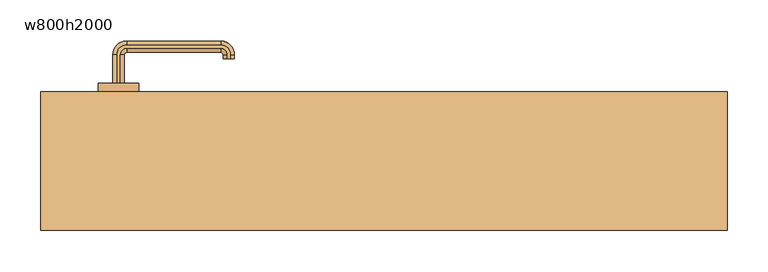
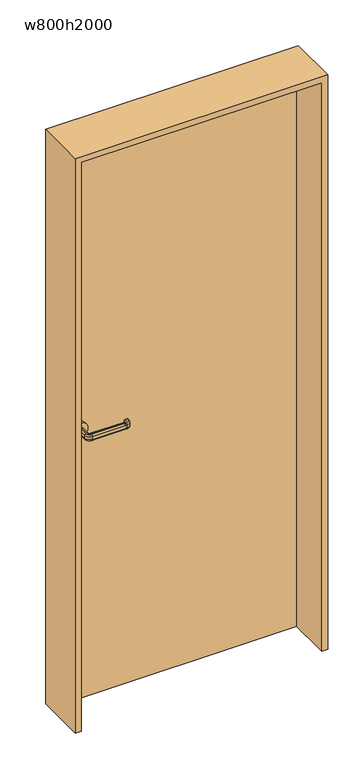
"""IFC4 building model written with IfcOpenShell, lengths in millimetres: door geometry, 片開き : w800h2000."""

from ifc_helpers import new_model, si_unit, point, frame, frame_2d, origin, origin_with_axes, place, context, project, spatial, polyline, circle_curve, ellipse_curve, trimmed, segment, composite_curve, outline, extrude, source, transform, mapped, element, save
from ifc_brep_helpers import plane_surface, cylinder_surface, revolved_surface, advanced_brep


def w800h2000_b5c5a0a2(model_context):
    return source(origin(), model_context, "Body", "SolidModel", [
        advanced_brep(
        [(-327.0, 95.0, 960.0), (-332.0, 95.0, 955.0), (-332.0, 95.0, 945.0477623), (-327.0, 95.0, 940.0477623), (-323.0, 95.0, 940.0477623), (-318.0, 95.0, 945.0477623), (-318.0, 95.0, 955.0), (-323.0, 95.0, 960.0), (-327.0, 130.0, 960.0), (-332.0, 130.0, 955.0), (-332.0, 130.0, 945.0477623), (-327.0, 130.0, 940.0477623), (-315.0, 142.0, 940.0477623), (-200.0, 142.0, 940.0477623), (-188.0, 130.0, 940.0477623), (-188.0, 125.0, 940.0477623), (-192.0, 125.0, 940.0477623), (-192.0, 130.0, 940.0477623), (-200.0, 138.0, 940.0477623), (-315.0, 138.0, 940.0477623), (-323.0, 130.0, 940.0477623), (-318.0, 130.0, 945.0477623), (-318.0, 130.0, 955.0), (-323.0, 130.0, 960.0), (-315.0, 138.0, 960.0), (-200.0, 138.0, 960.0), (-192.0, 130.0, 960.0), (-192.0, 125.0, 960.0), (-188.0, 125.0, 960.0), (-188.0, 130.0, 960.0), (-200.0, 142.0, 960.0), (-315.0, 142.0, 960.0), (-315.0, 147.0, 955.0), (-315.0, 147.0, 945.0477623), (-315.0, 133.0, 945.0477623), (-315.0, 133.0, 955.0), (-200.0, 147.0, 955.0), (-200.0, 147.0, 945.0477623), (-200.0, 133.0, 945.0477623), (-200.0, 133.0, 955.0), (-183.0, 130.0, 955.0), (-183.0, 130.0, 945.0477623), (-197.0, 130.0, 945.0477623), (-197.0, 130.0, 955.0), (-197.0, 125.0, 955.0), (-197.0, 125.0, 945.0477623), (-183.0, 125.0, 945.0477623), (-183.0, 125.0, 955.0)],
        [
            (0, 1, circle_curve(frame((-327.0, 95.0, 955.0), z_axis=(0.0, -1.0, 0.0), x_axis=(-1.0, 0.0, 0.0)), 5.0)),
            (1, 2),
            (2, 3, circle_curve(frame((-327.0, 95.0, 945.0477623), z_axis=(0.0, -1.0, 0.0), x_axis=(-1.0, 0.0, 0.0)), 5.0)),
            (3, 4),
            (4, 5, circle_curve(frame((-323.0, 95.0, 945.0477623), z_axis=(0.0, -1.0, 0.0), x_axis=(-1.0, 0.0, 0.0)), 5.0)),
            (5, 6),
            (6, 7, circle_curve(frame((-323.0, 95.0, 955.0), z_axis=(0.0, -1.0, 0.0), x_axis=(-1.0, 0.0, 0.0)), 5.0)),
            (7, 0),
            (0, 8),
            (8, 9, circle_curve(frame((-327.0, 130.0, 955.0), z_axis=(0.0, -1.0, 0.0), x_axis=(-1.0, 0.0, 0.0)), 5.0)),
            (9, 1),
            (9, 10),
            (10, 2),
            (10, 11, circle_curve(frame((-327.0, 130.0, 945.0477623), z_axis=(0.0, -1.0, 0.0), x_axis=(-1.0, 0.0, 0.0)), 5.0)),
            (11, 3),
            (11, 12, circle_curve(frame((-315.0, 130.0, 940.0477623), z_axis=(0.0, 0.0, -1.0), x_axis=(-1.0, 0.0, 0.0)), 12.0)),
            (12, 13),
            (13, 14, circle_curve(frame((-200.0, 130.0, 940.0477623), z_axis=(0.0, 0.0, -1.0), x_axis=(0.0, 1.0, 0.0)), 12.0)),
            (14, 15),
            (15, 16),
            (16, 17),
            (17, 18, circle_curve(frame((-200.0, 130.0, 940.0477623), z_axis=(0.0, 0.0, 1.0), x_axis=(0.0, 1.0, 0.0)), 8.0)),
            (18, 19),
            (19, 20, circle_curve(frame((-315.0, 130.0, 940.0477623), z_axis=(0.0, 0.0, 1.0), x_axis=(-1.0, 0.0, 0.0)), 8.0)),
            (20, 4),
            (20, 21, circle_curve(frame((-323.0, 130.0, 945.0477623), z_axis=(0.0, -1.0, 0.0), x_axis=(-1.0, 0.0, 0.0)), 5.0)),
            (21, 5),
            (21, 22),
            (22, 6),
            (22, 23, circle_curve(frame((-323.0, 130.0, 955.0), z_axis=(0.0, -1.0, 0.0), x_axis=(-1.0, 0.0, 0.0)), 5.0)),
            (23, 7),
            (23, 24, circle_curve(frame((-315.0, 130.0, 960.0), z_axis=(0.0, 0.0, -1.0), x_axis=(-1.0, 0.0, 0.0)), 8.0)),
            (24, 25),
            (25, 26, circle_curve(frame((-200.0, 130.0, 960.0), z_axis=(0.0, 0.0, -1.0), x_axis=(0.0, 1.0, 0.0)), 8.0)),
            (26, 27),
            (27, 28),
            (28, 29),
            (29, 30, circle_curve(frame((-200.0, 130.0, 960.0), z_axis=(0.0, 0.0, 1.0), x_axis=(0.0, 1.0, 0.0)), 12.0)),
            (30, 31),
            (31, 8, circle_curve(frame((-315.0, 130.0, 960.0), z_axis=(0.0, 0.0, 1.0), x_axis=(-1.0, 0.0, 0.0)), 12.0)),
            (32, 9, circle_curve(frame((-315.0, 130.0, 955.0), z_axis=(0.0, 0.0, 1.0), x_axis=(-1.0, 0.0, 0.0)), 17.0)),
            (31, 32, circle_curve(frame((-315.0, 142.0, 955.0), z_axis=(-1.0, 0.0, 0.0), x_axis=(0.0, 1.0, 0.0)), 5.0)),
            (33, 10, circle_curve(frame((-315.0, 130.0, 945.0477623), z_axis=(0.0, 0.0, 1.0), x_axis=(-1.0, 0.0, 0.0)), 17.0)),
            (32, 33),
            (33, 12, circle_curve(frame((-315.0, 142.0, 945.0477623), z_axis=(-1.0, 0.0, 0.0), x_axis=(0.0, 1.0, 0.0)), 5.0)),
            (34, 21, circle_curve(frame((-315.0, 130.0, 945.0477623), z_axis=(0.0, 0.0, 1.0), x_axis=(-1.0, 0.0, 0.0)), 3.0)),
            (19, 34, circle_curve(frame((-315.0, 138.0, 945.0477623), z_axis=(-1.0, 0.0, 0.0), x_axis=(0.0, 1.0, 0.0)), 5.0)),
            (35, 22, circle_curve(frame((-315.0, 130.0, 955.0), z_axis=(0.0, 0.0, 1.0), x_axis=(-1.0, 0.0, 0.0)), 3.0)),
            (34, 35),
            (35, 24, circle_curve(frame((-315.0, 138.0, 955.0), z_axis=(-1.0, 0.0, 0.0), x_axis=(0.0, 1.0, 0.0)), 5.0)),
            (30, 36, circle_curve(frame((-200.0, 142.0, 955.0), z_axis=(-1.0, 0.0, 0.0), x_axis=(0.0, 1.0, 0.0)), 5.0)),
            (36, 32),
            (36, 37),
            (37, 33),
            (37, 13, circle_curve(frame((-200.0, 142.0, 945.0477623), z_axis=(-1.0, 0.0, 0.0), x_axis=(0.0, 1.0, 0.0)), 5.0)),
            (18, 38, circle_curve(frame((-200.0, 138.0, 945.0477623), z_axis=(-1.0, 0.0, 0.0), x_axis=(0.0, 1.0, 0.0)), 5.0)),
            (38, 34),
            (38, 39),
            (39, 35),
            (39, 25, circle_curve(frame((-200.0, 138.0, 955.0), z_axis=(-1.0, 0.0, 0.0), x_axis=(0.0, 1.0, 0.0)), 5.0)),
            (40, 36, circle_curve(frame((-200.0, 130.0, 955.0), z_axis=(0.0, 0.0, 1.0), x_axis=(0.0, 1.0, 0.0)), 17.0)),
            (29, 40, circle_curve(frame((-188.0, 130.0, 955.0), z_axis=(0.0, 1.0, 0.0), x_axis=(1.0, 0.0, 0.0)), 5.0)),
            (41, 37, circle_curve(frame((-200.0, 130.0, 945.0477623), z_axis=(0.0, 0.0, 1.0), x_axis=(0.0, 1.0, 0.0)), 17.0)),
            (40, 41),
            (41, 14, circle_curve(frame((-188.0, 130.0, 945.0477623), z_axis=(0.0, 1.0, 0.0), x_axis=(1.0, 0.0, 0.0)), 5.0)),
            (42, 38, circle_curve(frame((-200.0, 130.0, 945.0477623), z_axis=(0.0, 0.0, 1.0), x_axis=(0.0, 1.0, 0.0)), 3.0)),
            (17, 42, circle_curve(frame((-192.0, 130.0, 945.0477623), z_axis=(0.0, 1.0, 0.0), x_axis=(1.0, 0.0, 0.0)), 5.0)),
            (43, 39, circle_curve(frame((-200.0, 130.0, 955.0), z_axis=(0.0, 0.0, 1.0), x_axis=(0.0, 1.0, 0.0)), 3.0)),
            (42, 43),
            (43, 26, circle_curve(frame((-192.0, 130.0, 955.0), z_axis=(0.0, 1.0, 0.0), x_axis=(1.0, 0.0, 0.0)), 5.0)),
            (27, 44, circle_curve(frame((-192.0, 125.0, 955.0), z_axis=(0.0, -1.0, 0.0), x_axis=(1.0, 0.0, 0.0)), 5.0)),
            (44, 45),
            (45, 16, circle_curve(frame((-192.0, 125.0, 945.0477623), z_axis=(0.0, -1.0, 0.0), x_axis=(1.0, 0.0, 0.0)), 5.0)),
            (15, 46, circle_curve(frame((-188.0, 125.0, 945.0477623), z_axis=(0.0, -1.0, 0.0), x_axis=(1.0, 0.0, 0.0)), 5.0)),
            (46, 47),
            (47, 28, circle_curve(frame((-188.0, 125.0, 955.0), z_axis=(0.0, -1.0, 0.0), x_axis=(1.0, 0.0, 0.0)), 5.0)),
            (47, 40),
            (46, 41),
            (45, 42),
            (44, 43),
        ],
        [
            plane_surface(frame((-335.198039, 95.0, 950.0), z_axis=(0.0, -1.0, 0.0), x_axis=(0.0, 0.0, 1.0))),
            cylinder_surface(frame((-327.0, 95.0, 955.0), z_axis=(0.0, -1.0, 0.0), x_axis=(-1.0, 0.0, 0.0)), 5.0),
            plane_surface(frame((-332.0, 95.0, 955.0), z_axis=(-1.0, 0.0, 0.0), x_axis=(0.0, 1.0, 0.0))),
            cylinder_surface(frame((-327.0, 95.0, 945.0477623), z_axis=(0.0, -1.0, 0.0), x_axis=(-1.0, 0.0, 0.0)), 5.0),
            plane_surface(frame((-327.0, 95.0, 940.0477623), z_axis=(0.0, 0.0, -1.0), x_axis=(0.0, 1.0, 0.0))),
            cylinder_surface(frame((-323.0, 95.0, 945.0477623), z_axis=(0.0, -1.0, 0.0), x_axis=(-1.0, 0.0, 0.0)), 5.0),
            plane_surface(frame((-318.0, 95.0, 945.0477623), z_axis=(1.0, 0.0, 0.0), x_axis=(0.0, 1.0, 0.0))),
            cylinder_surface(frame((-323.0, 95.0, 955.0), z_axis=(0.0, -1.0, 0.0), x_axis=(-1.0, 0.0, 0.0)), 5.0),
            plane_surface(frame((-323.0, 95.0, 960.0), z_axis=(0.0, 0.0, 1.0), x_axis=(0.0, 1.0, 0.0))),
            revolved_surface(trimmed(ellipse_curve(frame((-327.0, 130.0, 955.0), z_axis=(0.0, -1.0, 0.0), x_axis=(-1.0, 0.0, 0.0)), 5.0, 5.0), [point((-327.0, 130.0, 960.0))], [point((-332.0, 130.0, 955.0))], True, "CARTESIAN"), (-315.0, 130.0, 950.0), (0.0, 0.0, -1.0)),
            cylinder_surface(frame((-315.0, 130.0, 950.0), z_axis=(0.0, 0.0, -1.0), x_axis=(-1.0, 0.0, 0.0)), 17.0),
            revolved_surface(trimmed(ellipse_curve(frame((-327.0, 130.0, 945.0477623), z_axis=(0.0, -1.0, 0.0), x_axis=(-1.0, 0.0, 0.0)), 5.0, 5.0), [point((-332.0, 130.0, 945.0477623))], [point((-327.0, 130.0, 940.0477623))], True, "CARTESIAN"), (-315.0, 130.0, 950.0), (0.0, 0.0, -1.0)),
            revolved_surface(trimmed(ellipse_curve(frame((-323.0, 130.0, 945.0477623), z_axis=(0.0, -1.0, 0.0), x_axis=(-1.0, 0.0, 0.0)), 5.0, 5.0), [point((-323.0, 130.0, 940.0477623))], [point((-318.0, 130.0, 945.0477623))], True, "CARTESIAN"), (-315.0, 130.0, 950.0), (0.0, 0.0, -1.0)),
            revolved_surface(polyline([(-318.0, 130.0, 945.0477623), (-318.0, 130.0, 955.0)]), (-315.0, 130.0, 950.0), (0.0, 0.0, -1.0)),
            revolved_surface(trimmed(ellipse_curve(frame((-323.0, 130.0, 955.0), z_axis=(0.0, -1.0, 0.0), x_axis=(-1.0, 0.0, 0.0)), 5.0, 5.0), [point((-318.0, 130.0, 955.0))], [point((-323.0, 130.0, 960.0))], True, "CARTESIAN"), (-315.0, 130.0, 950.0), (0.0, 0.0, -1.0)),
            cylinder_surface(frame((-315.0, 142.0, 955.0), z_axis=(-1.0, 0.0, 0.0), x_axis=(0.0, 1.0, 0.0)), 5.0),
            plane_surface(frame((-315.0, 147.0, 955.0), z_axis=(0.0, 1.0, 0.0), x_axis=(1.0, 0.0, 0.0))),
            cylinder_surface(frame((-315.0, 142.0, 945.0477623), z_axis=(-1.0, 0.0, 0.0), x_axis=(0.0, 1.0, 0.0)), 5.0),
            cylinder_surface(frame((-315.0, 138.0, 945.0477623), z_axis=(-1.0, 0.0, 0.0), x_axis=(0.0, 1.0, 0.0)), 5.0),
            plane_surface(frame((-315.0, 133.0, 945.0477623), z_axis=(0.0, -1.0, 0.0), x_axis=(1.0, 0.0, 0.0))),
            cylinder_surface(frame((-315.0, 138.0, 955.0), z_axis=(-1.0, 0.0, 0.0), x_axis=(0.0, 1.0, 0.0)), 5.0),
            revolved_surface(trimmed(ellipse_curve(frame((-200.0, 142.0, 955.0), z_axis=(-1.0, 0.0, 0.0), x_axis=(0.0, 1.0, 0.0)), 5.0, 5.0), [point((-200.0, 142.0, 960.0))], [point((-200.0, 147.0, 955.0))], True, "CARTESIAN"), (-200.0, 130.0, 950.0), (0.0, 0.0, -1.0)),
            cylinder_surface(frame((-200.0, 130.0, 950.0), z_axis=(0.0, 0.0, -1.0), x_axis=(0.0, 1.0, 0.0)), 17.0),
            revolved_surface(trimmed(ellipse_curve(frame((-200.0, 142.0, 945.0477623), z_axis=(-1.0, 0.0, 0.0), x_axis=(0.0, 1.0, 0.0)), 5.0, 5.0), [point((-200.0, 147.0, 945.0477623))], [point((-200.0, 142.0, 940.0477623))], True, "CARTESIAN"), (-200.0, 130.0, 950.0), (0.0, 0.0, -1.0)),
            revolved_surface(trimmed(ellipse_curve(frame((-200.0, 138.0, 945.0477623), z_axis=(-1.0, 0.0, 0.0), x_axis=(0.0, 1.0, 0.0)), 5.0, 5.0), [point((-200.0, 138.0, 940.0477623))], [point((-200.0, 133.0, 945.0477623))], True, "CARTESIAN"), (-200.0, 130.0, 950.0), (0.0, 0.0, -1.0)),
            revolved_surface(polyline([(-200.0, 133.0, 945.0477623), (-200.0, 133.0, 955.0)]), (-200.0, 130.0, 950.0), (0.0, 0.0, -1.0)),
            revolved_surface(trimmed(ellipse_curve(frame((-200.0, 138.0, 955.0), z_axis=(-1.0, 0.0, 0.0), x_axis=(0.0, 1.0, 0.0)), 5.0, 5.0), [point((-200.0, 133.0, 955.0))], [point((-200.0, 138.0, 960.0))], True, "CARTESIAN"), (-200.0, 130.0, 950.0), (0.0, 0.0, -1.0)),
            plane_surface(frame((-200.198039, 125.0, 950.0), z_axis=(0.0, -1.0, 0.0), x_axis=(0.0, 0.0, -1.0))),
            cylinder_surface(frame((-188.0, 130.0, 955.0), z_axis=(0.0, 1.0, 0.0), x_axis=(1.0, 0.0, 0.0)), 5.0),
            plane_surface(frame((-183.0, 130.0, 955.0), z_axis=(1.0, 0.0, 0.0), x_axis=(0.0, -1.0, 0.0))),
            cylinder_surface(frame((-188.0, 130.0, 945.0477623), z_axis=(0.0, 1.0, 0.0), x_axis=(1.0, 0.0, 0.0)), 5.0),
            cylinder_surface(frame((-192.0, 130.0, 945.0477623), z_axis=(0.0, 1.0, 0.0), x_axis=(1.0, 0.0, 0.0)), 5.0),
            plane_surface(frame((-197.0, 130.0, 945.0477623), z_axis=(-1.0, 0.0, 0.0), x_axis=(0.0, -1.0, 0.0))),
            cylinder_surface(frame((-192.0, 130.0, 955.0), z_axis=(0.0, 1.0, 0.0), x_axis=(1.0, 0.0, 0.0)), 5.0),
        ],
        [
            (0, [[1, 2, 3, 4, 5, 6, 7, 8]]),
            (1, [[-1, 9, 10, 11]]),
            (2, [[-2, -11, 12, 13]]),
            (3, [[-3, -13, 14, 15]]),
            (4, [[-4, -15, 16, 17, 18, 19, 20, 21, 22, 23, 24, 25]]),
            (5, [[-5, -25, 26, 27]]),
            (6, [[-6, -27, 28, 29]]),
            (7, [[-7, -29, 30, 31]]),
            (8, [[-8, -31, 32, 33, 34, 35, 36, 37, 38, 39, 40, -9]]),
            (9, [[41, -10, -40, 42]]),
            (10, [[43, -12, -41, 44]]),
            (11, [[-16, -14, -43, 45]]),
            (12, [[46, -26, -24, 47]]),
            (13, [[48, -28, -46, 49]]),
            (14, [[-32, -30, -48, 50]]),
            (15, [[-42, -39, 51, 52]]),
            (16, [[-44, -52, 53, 54]]),
            (17, [[-45, -54, 55, -17]]),
            (18, [[-47, -23, 56, 57]]),
            (19, [[-49, -57, 58, 59]]),
            (20, [[-50, -59, 60, -33]]),
            (21, [[61, -51, -38, 62]]),
            (22, [[63, -53, -61, 64]]),
            (23, [[-18, -55, -63, 65]]),
            (24, [[66, -56, -22, 67]]),
            (25, [[68, -58, -66, 69]]),
            (26, [[-34, -60, -68, 70]]),
            (27, [[-36, 71, 72, 73, -20, 74, 75, 76]]),
            (28, [[-62, -37, -76, 77]]),
            (29, [[-64, -77, -75, 78]]),
            (30, [[-65, -78, -74, -19]]),
            (31, [[-67, -21, -73, 79]]),
            (32, [[-69, -79, -72, 80]]),
            (33, [[-70, -80, -71, -35]]),
        ],
    ),
        advanced_brep(
        [(-323.0, 50.0, 940.0), (-327.0, 50.0, 940.0), (-332.0, 50.0, 945.0), (-332.0, 50.0, 955.0), (-327.0, 50.0, 960.0), (-323.0, 50.0, 960.0), (-318.0, 50.0, 955.0), (-318.0, 50.0, 945.0), (-323.0, 15.0, 940.0), (-315.0, 7.0, 940.0), (-200.0, 7.0, 940.0), (-192.0, 15.0, 940.0), (-192.0, 20.0, 940.0), (-188.0, 20.0, 940.0), (-188.0, 15.0, 940.0), (-200.0, 3.0, 940.0), (-315.0, 3.0, 940.0), (-327.0, 15.0, 940.0), (-332.0, 15.0, 945.0), (-332.0, 15.0, 955.0), (-327.0, 15.0, 960.0), (-315.0, 3.0, 960.0), (-200.0, 3.0, 960.0), (-188.0, 15.0, 960.0), (-188.0, 20.0, 960.0), (-192.0, 20.0, 960.0), (-192.0, 15.0, 960.0), (-200.0, 7.0, 960.0), (-315.0, 7.0, 960.0), (-323.0, 15.0, 960.0), (-318.0, 15.0, 955.0), (-318.0, 15.0, 945.0), (-315.0, -2.0, 945.0), (-315.0, -2.0, 955.0), (-315.0, 12.0, 955.0), (-315.0, 12.0, 945.0), (-200.0, -2.0, 945.0), (-200.0, -2.0, 955.0), (-200.0, 12.0, 955.0), (-200.0, 12.0, 945.0), (-183.0, 15.0, 945.0), (-183.0, 15.0, 955.0), (-197.0, 15.0, 955.0), (-197.0, 15.0, 945.0), (-197.0, 20.0, 945.0), (-197.0, 20.0, 955.0), (-183.0, 20.0, 955.0), (-183.0, 20.0, 945.0)],
        [
            (0, 1),
            (1, 2, circle_curve(frame((-327.0, 50.0, 945.0), z_axis=(0.0, 1.0, 0.0), x_axis=(1.0, 0.0, 0.0)), 5.0)),
            (2, 3),
            (3, 4, circle_curve(frame((-327.0, 50.0, 955.0), z_axis=(0.0, 1.0, 0.0), x_axis=(1.0, 0.0, 0.0)), 5.0)),
            (4, 5),
            (5, 6, circle_curve(frame((-323.0, 50.0, 955.0), z_axis=(0.0, 1.0, 0.0), x_axis=(1.0, 0.0, 0.0)), 5.0)),
            (6, 7),
            (7, 0, circle_curve(frame((-323.0, 50.0, 945.0), z_axis=(0.0, 1.0, 0.0), x_axis=(1.0, 0.0, 0.0)), 5.0)),
            (0, 8),
            (8, 9, circle_curve(frame((-315.0, 15.0, 940.0), z_axis=(0.0, 0.0, 1.0), x_axis=(-1.0, 0.0, 0.0)), 8.0)),
            (9, 10),
            (10, 11, circle_curve(frame((-200.0, 15.0, 940.0), z_axis=(0.0, 0.0, 1.0), x_axis=(0.0, -1.0, 0.0)), 8.0)),
            (11, 12),
            (12, 13),
            (13, 14),
            (14, 15, circle_curve(frame((-200.0, 15.0, 940.0), z_axis=(0.0, 0.0, -1.0), x_axis=(0.0, -1.0, 0.0)), 12.0)),
            (15, 16),
            (16, 17, circle_curve(frame((-315.0, 15.0, 940.0), z_axis=(0.0, 0.0, -1.0), x_axis=(-1.0, 0.0, 0.0)), 12.0)),
            (17, 1),
            (17, 18, circle_curve(frame((-327.0, 15.0, 945.0), z_axis=(0.0, 1.0, 0.0), x_axis=(1.0, 0.0, 0.0)), 5.0)),
            (18, 2),
            (18, 19),
            (19, 3),
            (19, 20, circle_curve(frame((-327.0, 15.0, 955.0), z_axis=(0.0, 1.0, 0.0), x_axis=(1.0, 0.0, 0.0)), 5.0)),
            (20, 4),
            (20, 21, circle_curve(frame((-315.0, 15.0, 960.0), z_axis=(0.0, 0.0, 1.0), x_axis=(-1.0, 0.0, 0.0)), 12.0)),
            (21, 22),
            (22, 23, circle_curve(frame((-200.0, 15.0, 960.0), z_axis=(0.0, 0.0, 1.0), x_axis=(0.0, -1.0, 0.0)), 12.0)),
            (23, 24),
            (24, 25),
            (25, 26),
            (26, 27, circle_curve(frame((-200.0, 15.0, 960.0), z_axis=(0.0, 0.0, -1.0), x_axis=(0.0, -1.0, 0.0)), 8.0)),
            (27, 28),
            (28, 29, circle_curve(frame((-315.0, 15.0, 960.0), z_axis=(0.0, 0.0, -1.0), x_axis=(-1.0, 0.0, 0.0)), 8.0)),
            (29, 5),
            (29, 30, circle_curve(frame((-323.0, 15.0, 955.0), z_axis=(0.0, 1.0, 0.0), x_axis=(1.0, 0.0, 0.0)), 5.0)),
            (30, 6),
            (30, 31),
            (31, 7),
            (31, 8, circle_curve(frame((-323.0, 15.0, 945.0), z_axis=(0.0, 1.0, 0.0), x_axis=(1.0, 0.0, 0.0)), 5.0)),
            (32, 18, circle_curve(frame((-315.0, 15.0, 945.0), z_axis=(0.0, 0.0, -1.0), x_axis=(-1.0, 0.0, 0.0)), 17.0)),
            (16, 32, circle_curve(frame((-315.0, 3.0, 945.0), z_axis=(-1.0, 0.0, 0.0), x_axis=(0.0, 1.0, 0.0)), 5.0)),
            (33, 19, circle_curve(frame((-315.0, 15.0, 955.0), z_axis=(0.0, 0.0, -1.0), x_axis=(-1.0, 0.0, 0.0)), 17.0)),
            (32, 33),
            (33, 21, circle_curve(frame((-315.0, 3.0, 955.0), z_axis=(-1.0, 0.0, 0.0), x_axis=(0.0, 1.0, 0.0)), 5.0)),
            (34, 30, circle_curve(frame((-315.0, 15.0, 955.0), z_axis=(0.0, 0.0, -1.0), x_axis=(-1.0, 0.0, 0.0)), 3.0)),
            (28, 34, circle_curve(frame((-315.0, 7.0, 955.0), z_axis=(-1.0, 0.0, 0.0), x_axis=(0.0, 1.0, 0.0)), 5.0)),
            (35, 31, circle_curve(frame((-315.0, 15.0, 945.0), z_axis=(0.0, 0.0, -1.0), x_axis=(-1.0, 0.0, 0.0)), 3.0)),
            (34, 35),
            (35, 9, circle_curve(frame((-315.0, 7.0, 945.0), z_axis=(-1.0, 0.0, 0.0), x_axis=(0.0, 1.0, 0.0)), 5.0)),
            (15, 36, circle_curve(frame((-200.0, 3.0, 945.0), z_axis=(-1.0, 0.0, 0.0), x_axis=(0.0, 1.0, 0.0)), 5.0)),
            (36, 32),
            (36, 37),
            (37, 33),
            (37, 22, circle_curve(frame((-200.0, 3.0, 955.0), z_axis=(-1.0, 0.0, 0.0), x_axis=(0.0, 1.0, 0.0)), 5.0)),
            (27, 38, circle_curve(frame((-200.0, 7.0, 955.0), z_axis=(-1.0, 0.0, 0.0), x_axis=(0.0, 1.0, 0.0)), 5.0)),
            (38, 34),
            (38, 39),
            (39, 35),
            (39, 10, circle_curve(frame((-200.0, 7.0, 945.0), z_axis=(-1.0, 0.0, 0.0), x_axis=(0.0, 1.0, 0.0)), 5.0)),
            (40, 36, circle_curve(frame((-200.0, 15.0, 945.0), z_axis=(0.0, 0.0, -1.0), x_axis=(0.0, -1.0, 0.0)), 17.0)),
            (14, 40, circle_curve(frame((-188.0, 15.0, 945.0), z_axis=(0.0, -1.0, 0.0), x_axis=(-1.0, 0.0, 0.0)), 5.0)),
            (41, 37, circle_curve(frame((-200.0, 15.0, 955.0), z_axis=(0.0, 0.0, -1.0), x_axis=(0.0, -1.0, 0.0)), 17.0)),
            (40, 41),
            (41, 23, circle_curve(frame((-188.0, 15.0, 955.0), z_axis=(0.0, -1.0, 0.0), x_axis=(-1.0, 0.0, 0.0)), 5.0)),
            (42, 38, circle_curve(frame((-200.0, 15.0, 955.0), z_axis=(0.0, 0.0, -1.0), x_axis=(0.0, -1.0, 0.0)), 3.0)),
            (26, 42, circle_curve(frame((-192.0, 15.0, 955.0), z_axis=(0.0, -1.0, 0.0), x_axis=(-1.0, 0.0, 0.0)), 5.0)),
            (43, 39, circle_curve(frame((-200.0, 15.0, 945.0), z_axis=(0.0, 0.0, -1.0), x_axis=(0.0, -1.0, 0.0)), 3.0)),
            (42, 43),
            (43, 11, circle_curve(frame((-192.0, 15.0, 945.0), z_axis=(0.0, -1.0, 0.0), x_axis=(-1.0, 0.0, 0.0)), 5.0)),
            (12, 44, circle_curve(frame((-192.0, 20.0, 945.0), z_axis=(0.0, 1.0, 0.0), x_axis=(-1.0, 0.0, 0.0)), 5.0)),
            (44, 45),
            (45, 25, circle_curve(frame((-192.0, 20.0, 955.0), z_axis=(0.0, 1.0, 0.0), x_axis=(-1.0, 0.0, 0.0)), 5.0)),
            (24, 46, circle_curve(frame((-188.0, 20.0, 955.0), z_axis=(0.0, 1.0, 0.0), x_axis=(-1.0, 0.0, 0.0)), 5.0)),
            (46, 47),
            (47, 13, circle_curve(frame((-188.0, 20.0, 945.0), z_axis=(0.0, 1.0, 0.0), x_axis=(-1.0, 0.0, 0.0)), 5.0)),
            (47, 40),
            (46, 41),
            (45, 42),
            (44, 43),
        ],
        [
            plane_surface(frame((-335.198039, 50.0, 950.0), z_axis=(0.0, 1.0, 0.0), x_axis=(0.0, 0.0, -1.0))),
            plane_surface(frame((-323.0, 50.0, 940.0), z_axis=(0.0, 0.0, -1.0), x_axis=(0.0, -1.0, 0.0))),
            cylinder_surface(frame((-327.0, 50.0, 945.0), z_axis=(0.0, 1.0, 0.0), x_axis=(1.0, 0.0, 0.0)), 5.0),
            plane_surface(frame((-332.0, 50.0, 945.0), z_axis=(-1.0, 0.0, 0.0), x_axis=(0.0, -1.0, 0.0))),
            cylinder_surface(frame((-327.0, 50.0, 955.0), z_axis=(0.0, 1.0, 0.0), x_axis=(1.0, 0.0, 0.0)), 5.0),
            plane_surface(frame((-327.0, 50.0, 960.0), z_axis=(0.0, 0.0, 1.0), x_axis=(0.0, -1.0, 0.0))),
            cylinder_surface(frame((-323.0, 50.0, 955.0), z_axis=(0.0, 1.0, 0.0), x_axis=(1.0, 0.0, 0.0)), 5.0),
            plane_surface(frame((-318.0, 50.0, 955.0), z_axis=(1.0, 0.0, 0.0), x_axis=(0.0, -1.0, 0.0))),
            cylinder_surface(frame((-323.0, 50.0, 945.0), z_axis=(0.0, 1.0, 0.0), x_axis=(1.0, 0.0, 0.0)), 5.0),
            revolved_surface(trimmed(ellipse_curve(frame((-327.0, 15.0, 945.0), z_axis=(0.0, 1.0, 0.0), x_axis=(1.0, 0.0, 0.0)), 5.0, 5.0), [point((-327.0, 15.0, 940.0))], [point((-332.0, 15.0, 945.0))], True, "CARTESIAN"), (-315.0, 15.0, 950.0), (0.0, 0.0, 1.0)),
            cylinder_surface(frame((-315.0, 15.0, 950.0), z_axis=(0.0, 0.0, 1.0), x_axis=(-1.0, 0.0, 0.0)), 17.0),
            revolved_surface(trimmed(ellipse_curve(frame((-327.0, 15.0, 955.0), z_axis=(0.0, 1.0, 0.0), x_axis=(1.0, 0.0, 0.0)), 5.0, 5.0), [point((-332.0, 15.0, 955.0))], [point((-327.0, 15.0, 960.0))], True, "CARTESIAN"), (-315.0, 15.0, 950.0), (0.0, 0.0, 1.0)),
            revolved_surface(trimmed(ellipse_curve(frame((-323.0, 15.0, 955.0), z_axis=(0.0, 1.0, 0.0), x_axis=(1.0, 0.0, 0.0)), 5.0, 5.0), [point((-323.0, 15.0, 960.0))], [point((-318.0, 15.0, 955.0))], True, "CARTESIAN"), (-315.0, 15.0, 950.0), (0.0, 0.0, 1.0)),
            revolved_surface(polyline([(-318.0, 15.0, 955.0), (-318.0, 15.0, 945.0)]), (-315.0, 15.0, 950.0), (0.0, 0.0, 1.0)),
            revolved_surface(trimmed(ellipse_curve(frame((-323.0, 15.0, 945.0), z_axis=(0.0, 1.0, 0.0), x_axis=(1.0, 0.0, 0.0)), 5.0, 5.0), [point((-318.0, 15.0, 945.0))], [point((-323.0, 15.0, 940.0))], True, "CARTESIAN"), (-315.0, 15.0, 950.0), (0.0, 0.0, 1.0)),
            cylinder_surface(frame((-315.0, 3.0, 945.0), z_axis=(-1.0, 0.0, 0.0), x_axis=(0.0, 1.0, 0.0)), 5.0),
            plane_surface(frame((-315.0, -2.0, 945.0), z_axis=(0.0, -1.0, 0.0), x_axis=(1.0, 0.0, 0.0))),
            cylinder_surface(frame((-315.0, 3.0, 955.0), z_axis=(-1.0, 0.0, 0.0), x_axis=(0.0, 1.0, 0.0)), 5.0),
            cylinder_surface(frame((-315.0, 7.0, 955.0), z_axis=(-1.0, 0.0, 0.0), x_axis=(0.0, 1.0, 0.0)), 5.0),
            plane_surface(frame((-315.0, 12.0, 955.0), z_axis=(0.0, 1.0, 0.0), x_axis=(1.0, 0.0, 0.0))),
            cylinder_surface(frame((-315.0, 7.0, 945.0), z_axis=(-1.0, 0.0, 0.0), x_axis=(0.0, 1.0, 0.0)), 5.0),
            revolved_surface(trimmed(ellipse_curve(frame((-200.0, 3.0, 945.0), z_axis=(-1.0, 0.0, 0.0), x_axis=(0.0, 1.0, 0.0)), 5.0, 5.0), [point((-200.0, 3.0, 940.0))], [point((-200.0, -2.0, 945.0))], True, "CARTESIAN"), (-200.0, 15.0, 950.0), (0.0, 0.0, 1.0)),
            cylinder_surface(frame((-200.0, 15.0, 950.0), z_axis=(0.0, 0.0, 1.0), x_axis=(0.0, -1.0, 0.0)), 17.0),
            revolved_surface(trimmed(ellipse_curve(frame((-200.0, 3.0, 955.0), z_axis=(-1.0, 0.0, 0.0), x_axis=(0.0, 1.0, 0.0)), 5.0, 5.0), [point((-200.0, -2.0, 955.0))], [point((-200.0, 3.0, 960.0))], True, "CARTESIAN"), (-200.0, 15.0, 950.0), (0.0, 0.0, 1.0)),
            revolved_surface(trimmed(ellipse_curve(frame((-200.0, 7.0, 955.0), z_axis=(-1.0, 0.0, 0.0), x_axis=(0.0, 1.0, 0.0)), 5.0, 5.0), [point((-200.0, 7.0, 960.0))], [point((-200.0, 12.0, 955.0))], True, "CARTESIAN"), (-200.0, 15.0, 950.0), (0.0, 0.0, 1.0)),
            revolved_surface(polyline([(-200.0, 12.0, 955.0), (-200.0, 12.0, 945.0)]), (-200.0, 15.0, 950.0), (0.0, 0.0, 1.0)),
            revolved_surface(trimmed(ellipse_curve(frame((-200.0, 7.0, 945.0), z_axis=(-1.0, 0.0, 0.0), x_axis=(0.0, 1.0, 0.0)), 5.0, 5.0), [point((-200.0, 12.0, 945.0))], [point((-200.0, 7.0, 940.0))], True, "CARTESIAN"), (-200.0, 15.0, 950.0), (0.0, 0.0, 1.0)),
            plane_surface(frame((-200.198039, 20.0, 950.0), z_axis=(0.0, 1.0, 0.0), x_axis=(0.0, 0.0, 1.0))),
            cylinder_surface(frame((-188.0, 15.0, 945.0), z_axis=(0.0, -1.0, 0.0), x_axis=(-1.0, 0.0, 0.0)), 5.0),
            plane_surface(frame((-183.0, 15.0, 945.0), z_axis=(1.0, 0.0, 0.0), x_axis=(0.0, 1.0, 0.0))),
            cylinder_surface(frame((-188.0, 15.0, 955.0), z_axis=(0.0, -1.0, 0.0), x_axis=(-1.0, 0.0, 0.0)), 5.0),
            cylinder_surface(frame((-192.0, 15.0, 955.0), z_axis=(0.0, -1.0, 0.0), x_axis=(-1.0, 0.0, 0.0)), 5.0),
            plane_surface(frame((-197.0, 15.0, 955.0), z_axis=(-1.0, 0.0, 0.0), x_axis=(0.0, 1.0, 0.0))),
            cylinder_surface(frame((-192.0, 15.0, 945.0), z_axis=(0.0, -1.0, 0.0), x_axis=(-1.0, 0.0, 0.0)), 5.0),
        ],
        [
            (0, [[1, 2, 3, 4, 5, 6, 7, 8]]),
            (1, [[-1, 9, 10, 11, 12, 13, 14, 15, 16, 17, 18, 19]]),
            (2, [[-2, -19, 20, 21]]),
            (3, [[-3, -21, 22, 23]]),
            (4, [[-4, -23, 24, 25]]),
            (5, [[-5, -25, 26, 27, 28, 29, 30, 31, 32, 33, 34, 35]]),
            (6, [[-6, -35, 36, 37]]),
            (7, [[-7, -37, 38, 39]]),
            (8, [[-8, -39, 40, -9]]),
            (9, [[41, -20, -18, 42]]),
            (10, [[43, -22, -41, 44]]),
            (11, [[-26, -24, -43, 45]]),
            (12, [[46, -36, -34, 47]]),
            (13, [[48, -38, -46, 49]]),
            (14, [[-10, -40, -48, 50]]),
            (15, [[-42, -17, 51, 52]]),
            (16, [[-44, -52, 53, 54]]),
            (17, [[-45, -54, 55, -27]]),
            (18, [[-47, -33, 56, 57]]),
            (19, [[-49, -57, 58, 59]]),
            (20, [[-50, -59, 60, -11]]),
            (21, [[61, -51, -16, 62]]),
            (22, [[63, -53, -61, 64]]),
            (23, [[-28, -55, -63, 65]]),
            (24, [[66, -56, -32, 67]]),
            (25, [[68, -58, -66, 69]]),
            (26, [[-12, -60, -68, 70]]),
            (27, [[71, 72, 73, -30, 74, 75, 76, -14]]),
            (28, [[-62, -15, -76, 77]]),
            (29, [[-64, -77, -75, 78]]),
            (30, [[-65, -78, -74, -29]]),
            (31, [[-67, -31, -73, 79]]),
            (32, [[-69, -79, -72, 80]]),
            (33, [[-70, -80, -71, -13]]),
        ],
    ),
        extrude(outline(composite_curve([segment(trimmed(circle_curve(frame_2d((950.0, -325.0)), 25.0), [point((950.0, -350.0))], [point((950.0, -300.0))], False, "CARTESIAN"), True, "CONTINUOUS"), segment(trimmed(circle_curve(frame_2d((950.0, -325.0)), 25.0), [point((950.0, -300.0))], [point((950.0, -350.0))], False, "CARTESIAN"), True, "CONTINUOUS")], self_intersect=False)), frame((0.0, 85.0, 0.0), z_axis=(0.0, 1.0, 0.0), x_axis=(0.0, 0.0, 1.0)), (0.0, 0.0, 1.0), 10.0),
        extrude(outline(composite_curve([segment(trimmed(circle_curve(frame_2d((950.0, -325.0)), 25.0), [point((950.0, -350.0))], [point((950.0, -300.0))], False, "CARTESIAN"), True, "CONTINUOUS"), segment(trimmed(circle_curve(frame_2d((950.0, -325.0)), 25.0), [point((950.0, -300.0))], [point((950.0, -350.0))], False, "CARTESIAN"), True, "CONTINUOUS")], self_intersect=False)), frame((0.0, 50.0, 0.0), z_axis=(0.0, 1.0, 0.0), x_axis=(0.0, 0.0, 1.0)), (0.0, 0.0, 1.0), 10.0),
        extrude(outline(polyline([(2020.0, -420.0), (0.0, -420.0), (0.0, -400.0), (2000.0, -400.0), (2000.0, 400.0), (0.0, 400.0), (0.0, 420.0), (2020.0, 420.0), (2020.0, -420.0)])), frame((0.0, -85.0, 0.0), z_axis=(0.0, 1.0, 0.0), x_axis=(0.0, 0.0, 1.0)), (0.0, 0.0, 1.0), 170.0),
        extrude(outline(polyline([(400.0, 60.0), (-400.0, 60.0), (-400.0, 85.0), (400.0, 85.0), (400.0, 60.0)])), origin_with_axes(), (0.0, 0.0, 1.0), 2000.0),
    ])


if __name__ == "__main__":
    model = new_model("IFC4")
    model_context = context("Model", 3, world=origin())
    ifc_project = project(units=[si_unit("LENGTHUNIT", "METRE", prefix="MILLI")], contexts=[model_context])
    site = spatial("IfcSite", under=ifc_project)
    building = spatial("IfcBuilding", under=site)
    placement = place(None, origin())
    w800h2000_shape = w800h2000_b5c5a0a2(model_context)
    element("IfcDoor", 1, ObjectType="片開き : w800h2000", at=placement, inside=building, context=model_context, shape_type="MappedRepresentation", body=[
        mapped(w800h2000_shape, transform((0.0, 0.0, 0.0), x_axis=(1.0, 0.0, 0.0), y_axis=(0.0, 1.0, 0.0), z_axis=(0.0, 0.0, 1.0))),
    ])
    save(model, "model.ifc")
